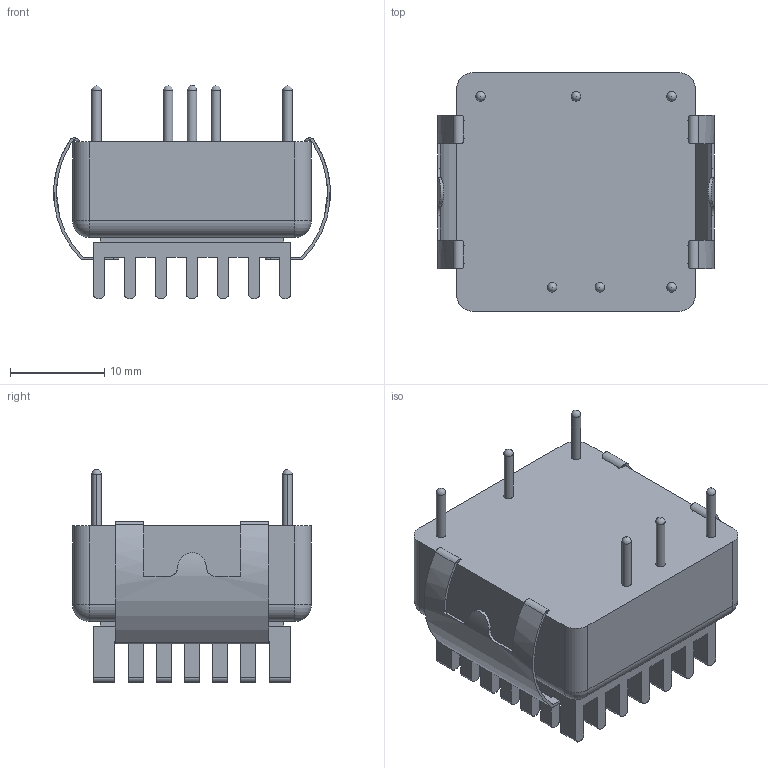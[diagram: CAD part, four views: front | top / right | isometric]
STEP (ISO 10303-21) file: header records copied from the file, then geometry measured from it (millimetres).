
FILE_DESCRIPTION (( 'STEP AP203' ), '1' );
FILE_NAME ('MJW10+MJWI10+MJW15+MJWI15+MJWI20+MJW25+MJWI25+HS.STEP', '2017-06-14T00:19:47', ( 'SuperXP' ), ( 'mychat' ), 'SwSTEP 2.0', 'SolidWorks 2009', '' );
FILE_SCHEMA (( 'CONFIG_CONTROL_DESIGN' ));
Length unit declared in the file: millimetre
Products named in the file (5): 086-HS-34; MJW10+MJWI10+MJW15+MJWI15+MJWI20+MJW25+MJWI25+HS; 091-300-19.5x19.5x0.5; 1X1 CASE; 072-CLAMP-3
Assembly tree (5 placements, depth 2):
  MJW10+MJWI10+MJW15+MJWI15+MJWI20+MJW25+MJWI25+HS
    091-300-19.5x19.5x0.5
    072-CLAMP-3  x2
    1X1 CASE
    086-HS-34
Bounding box: 29.42 x 25.4 x 22.66 mm (x, y, z)
Volume: 7969.8 mm3; surface area: 6317.6 mm2
Topology: 5 solids, 5 shells, 447 faces, 1228 edges, 812 vertices
Faces by surface type: plane 277, cylinder 160, sphere 10
Entity records: 13297 total; most frequent: CARTESIAN_POINT 2341, DIRECTION 2178, ORIENTED_EDGE 2172, EDGE_CURVE 1086, VECTOR 792, LINE 792, VERTEX_POINT 720, AXIS2_PLACEMENT_3D 693
